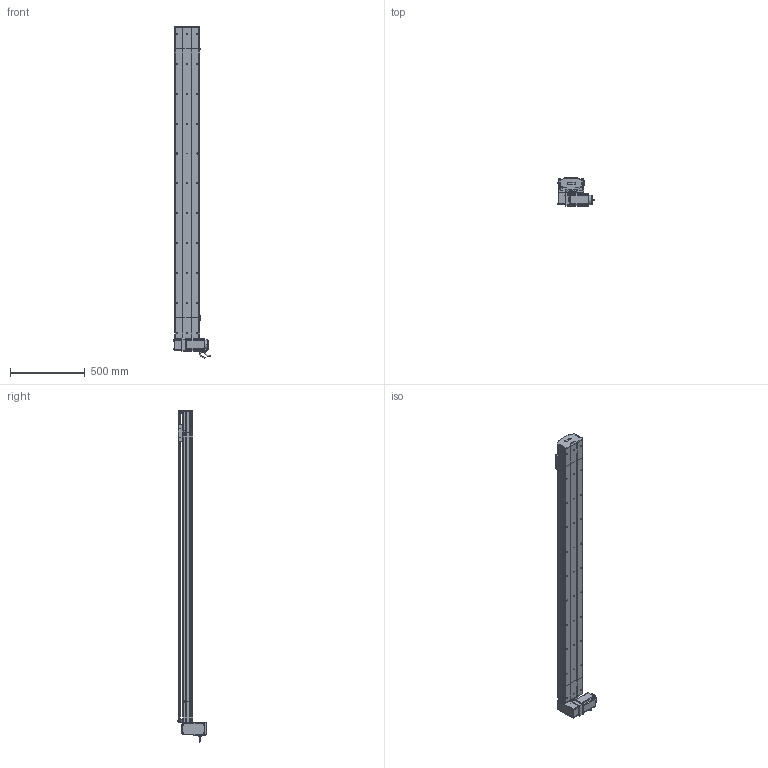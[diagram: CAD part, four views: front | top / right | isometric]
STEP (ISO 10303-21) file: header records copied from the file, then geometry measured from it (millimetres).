
FILE_DESCRIPTION (( 'STEP AP214' ), '1' );
FILE_NAME ('D17 TBN RU S1800.STEP', '2010-06-30T11:12:07', ( 'Christophe Gaillard' ), ( 'SGA' ), 'SwSTEP 2.0', 'SolidWorks 2010', '' );
FILE_SCHEMA (( 'AUTOMOTIVE_DESIGN' ));
Length unit declared in the file: millimetre
Products named in the file (40): Renvoi RU_Default; avant 90BLDC125A-640; Arbre+rail head D17B; vis M5 L16_Default; vis M5 L8 90°_Default; vis M5 L12_Default; vis M5 L25_Default; chariot D17 TBN; D17 TBN RU S1800; Plaque racord D17_Default; vis M5 L70_Default; guide D17; course 1800 D17B_Default; Moteur motionking 90BLDC125A-640; Rail D17B; Tail D17B_Default; corpl tail D17B_Default; tete d''axe poulie D17B; plaque de  bout tail D17B_Default; codeur 90BLDC125-640; poulie tail_Default; Conecteur2_Default; corp D17B 1800_Default; Conecteur_Default; Couroie tail D17B_Default; couvercle D17B course L1800_Default; Head RU D17B_Default; corpl head D17 _Default; couvercle D17B head_Default; Couroie+ rail D17 Course 1800 ; plaque de  bout head D17B RU_Default; cache D17_Default; vis M5 L5_Default; poulie head_Default; couroie head D17_Default; couvercle D17B_Default; corps 90BLDC125A-640; Vis M5 L16-2_Default; Chariot D17 TBN; cache arbre D17_Default
Assembly tree (66 placements, depth 4):
  D17 TBN RU S1800
    Head RU D17B_Default
      plaque de  bout head D17B RU_Default
      corpl head D17 _Default
      vis M5 L12_Default  x8
      cache D17_Default  x2
      vis M5 L70_Default  x4
      Arbre+rail head D17B
      couvercle D17B head_Default
      Vis M5 L16-2_Default  x4
      vis M5 L16_Default  x2
      vis M5 L5_Default  x4
      couroie head D17_Default
      Plaque racord D17_Default
      Renvoi RU_Default
      cache arbre D17_Default
      poulie head_Default
      vis M5 L25_Default  x2
      Moteur motionking 90BLDC125A-640
        codeur 90BLDC125-640
        avant 90BLDC125A-640
        corps 90BLDC125A-640
        Conecteur_Default
        Conecteur2_Default
    chariot D17 TBN
      guide D17  x2
      Chariot D17 TBN
    course 1800 D17B_Default
      couvercle D17B course L1800_Default
      corp D17B 1800_Default
      Couroie+ rail D17 Course 1800 
    Tail D17B_Default
      Rail D17B
      vis M5 L25_Default  x2
      vis M5 L8 90°_Default  x2
      corpl tail D17B_Default
      couvercle D17B_Default
      vis M5 L12_Default  x4
      tete d''axe poulie D17B
      poulie tail_Default
      Couroie tail D17B_Default
      plaque de  bout tail D17B_Default
Bounding box: 245.2 x 188.65 x 2223.95 mm (x, y, z)
Volume: 13142966.1 mm3; surface area: 3775226.1 mm2
Topology: 89 solids, 89 shells, 2579 faces, 6561 edges, 4230 vertices
Faces by surface type: plane 1533, cylinder 749, bspline 136, cone 80, torus 77, sphere 4
Entity records: 83387 total; most frequent: CARTESIAN_POINT 24903, ORIENTED_EDGE 10294, DIRECTION 9732, EDGE_CURVE 5147, VECTOR 3426, LINE 3426, VERTEX_POINT 3374, AXIS2_PLACEMENT_3D 3153
